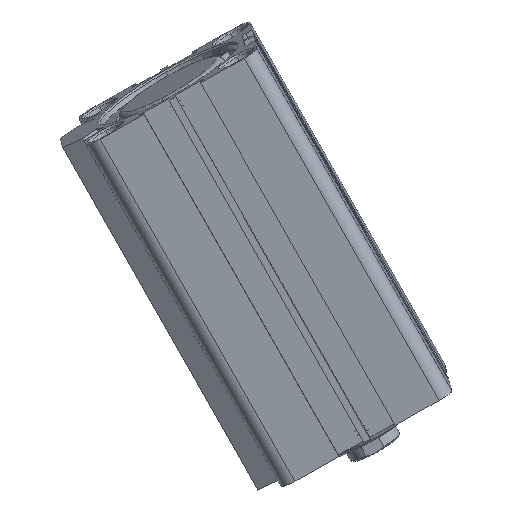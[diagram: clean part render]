
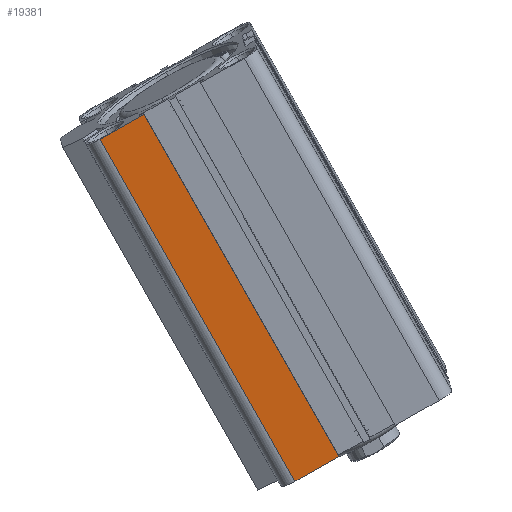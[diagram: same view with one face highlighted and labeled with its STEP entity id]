
A CAD part, left-side view. The second image highlights one B-rep face of the part: STEP entity #19381.
In plain terms, the highlighted planar face has unit normal (-0.987, -0.042, -0.158) as drawn and (-1, 0, 0) by its records, which use the part's own axes.
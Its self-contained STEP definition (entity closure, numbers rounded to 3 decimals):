
#891 = CARTESIAN_POINT ( 'NONE',  ( -26., 0., 106. ) ) ;
#1121 = CARTESIAN_POINT ( 'NONE',  ( -26., 22., 106. ) ) ;
#1351 = EDGE_CURVE ( 'NONE', #5625, #3340, #3188, .T. ) ;
#1361 = DIRECTION ( 'NONE',  ( 0., 0., -1. ) ) ;
#1563 = CARTESIAN_POINT ( 'NONE',  ( -26., 22., 0. ) ) ;
#1592 = CARTESIAN_POINT ( 'NONE',  ( -26., 8.6, 0. ) ) ;
#2105 = DIRECTION ( 'NONE',  ( 0., 0., -1. ) ) ;
#2224 = CARTESIAN_POINT ( 'NONE',  ( -26., 8.6, 106. ) ) ;
#3188 = LINE ( 'NONE', #13765, #16429 ) ;
#3340 = VERTEX_POINT ( 'NONE', #1563 ) ;
#3905 = DIRECTION ( 'NONE',  ( -1., 0., 0. ) ) ;
#4745 = EDGE_CURVE ( 'NONE', #7563, #5625, #18779, .T. ) ;
#5436 = ORIENTED_EDGE ( 'NONE', *, *, #5842, .T. ) ;
#5625 = VERTEX_POINT ( 'NONE', #1592 ) ;
#5748 = EDGE_CURVE ( 'NONE', #10400, #3340, #9230, .T. ) ;
#5842 = EDGE_CURVE ( 'NONE', #7563, #10400, #9618, .T. ) ;
#7503 = AXIS2_PLACEMENT_3D ( 'NONE', #891, #3905, #9008 ) ;
#7563 = VERTEX_POINT ( 'NONE', #11482 ) ;
#7887 = DIRECTION ( 'NONE',  ( 0., 1., 0. ) ) ;
#9008 = DIRECTION ( 'NONE',  ( 0., -1., 0. ) ) ;
#9230 = LINE ( 'NONE', #16386, #16281 ) ;
#9618 = LINE ( 'NONE', #19765, #15828 ) ;
#10400 = VERTEX_POINT ( 'NONE', #1121 ) ;
#11482 = CARTESIAN_POINT ( 'NONE',  ( -26., 8.6, 106. ) ) ;
#13255 = PLANE ( 'NONE',  #7503 ) ;
#13765 = CARTESIAN_POINT ( 'NONE',  ( -26., 0., 0. ) ) ;
#14325 = FACE_OUTER_BOUND ( 'NONE', #15430, .T. ) ;
#14333 = ORIENTED_EDGE ( 'NONE', *, *, #4745, .F. ) ;
#14608 = ORIENTED_EDGE ( 'NONE', *, *, #1351, .F. ) ;
#15430 = EDGE_LOOP ( 'NONE', ( #14608, #14333, #5436, #19122 ) ) ;
#15828 = VECTOR ( 'NONE', #7887, 1000. ) ;
#16281 = VECTOR ( 'NONE', #2105, 1000. ) ;
#16386 = CARTESIAN_POINT ( 'NONE',  ( -26., 22., 106. ) ) ;
#16429 = VECTOR ( 'NONE', #18407, 1000. ) ;
#18407 = DIRECTION ( 'NONE',  ( 0., 1., 0. ) ) ;
#18779 = LINE ( 'NONE', #2224, #19084 ) ;
#19084 = VECTOR ( 'NONE', #1361, 1000. ) ;
#19122 = ORIENTED_EDGE ( 'NONE', *, *, #5748, .T. ) ;
#19381 = ADVANCED_FACE ( 'NONE', ( #14325 ), #13255, .T. ) ;
#19765 = CARTESIAN_POINT ( 'NONE',  ( -26., 0., 106. ) ) ;
